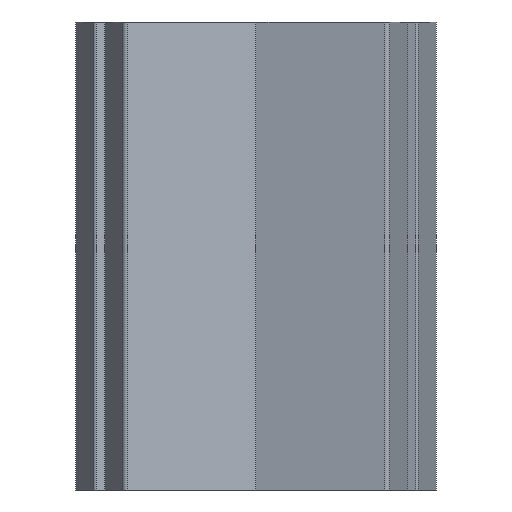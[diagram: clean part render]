
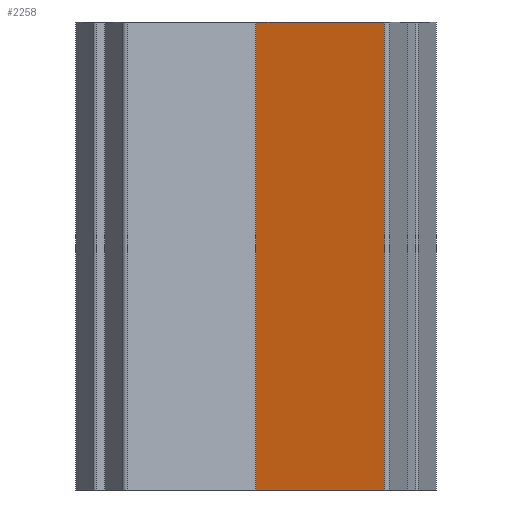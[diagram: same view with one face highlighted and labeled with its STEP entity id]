
A CAD part, front view. The second image highlights one B-rep face of the part: STEP entity #2258.
In plain terms, the highlighted planar face has unit normal (-0.259, -0.966, 0).
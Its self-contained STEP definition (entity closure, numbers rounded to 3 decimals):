
#26 = EDGE_CURVE ( 'NONE', #466, #2180, #1621, .T. ) ;
#85 = ORIENTED_EDGE ( 'NONE', *, *, #2661, .F. ) ;
#243 = CARTESIAN_POINT ( 'NONE',  ( 0., -18.441, 0. ) ) ;
#380 = ORIENTED_EDGE ( 'NONE', *, *, #26, .T. ) ;
#466 = VERTEX_POINT ( 'NONE', #1145 ) ;
#655 = LINE ( 'NONE', #2476, #910 ) ;
#746 = CARTESIAN_POINT ( 'NONE',  ( 27.37, -25.775, 0. ) ) ;
#766 = CARTESIAN_POINT ( 'NONE',  ( 0., -18.441, -100. ) ) ;
#900 = DIRECTION ( 'NONE',  ( 0., 0., 1. ) ) ;
#910 = VECTOR ( 'NONE', #900, 1000. ) ;
#1010 = LINE ( 'NONE', #2023, #3162 ) ;
#1012 = DIRECTION ( 'NONE',  ( 0.966, -0.259, 0. ) ) ;
#1062 = FACE_OUTER_BOUND ( 'NONE', #2013, .T. ) ;
#1145 = CARTESIAN_POINT ( 'NONE',  ( 27.37, -25.775, -100. ) ) ;
#1292 = LINE ( 'NONE', #243, #2313 ) ;
#1449 = VECTOR ( 'NONE', #2383, 1000. ) ;
#1470 = ORIENTED_EDGE ( 'NONE', *, *, #1648, .F. ) ;
#1621 = LINE ( 'NONE', #2633, #1449 ) ;
#1648 = EDGE_CURVE ( 'NONE', #2733, #2021, #655, .T. ) ;
#1717 = CARTESIAN_POINT ( 'NONE',  ( 0., -18.441, 0. ) ) ;
#1806 = DIRECTION ( 'NONE',  ( 0.966, -0.259, 0. ) ) ;
#2013 = EDGE_LOOP ( 'NONE', ( #85, #1470, #2992, #380 ) ) ;
#2021 = VERTEX_POINT ( 'NONE', #1717 ) ;
#2023 = CARTESIAN_POINT ( 'NONE',  ( 0., -18.441, -100. ) ) ;
#2138 = AXIS2_PLACEMENT_3D ( 'NONE', #766, #2583, #1806 ) ;
#2180 = VERTEX_POINT ( 'NONE', #746 ) ;
#2258 = ADVANCED_FACE ( 'NONE', ( #1062 ), #2297, .T. ) ;
#2297 = PLANE ( 'NONE',  #2138 ) ;
#2313 = VECTOR ( 'NONE', #1012, 1000. ) ;
#2383 = DIRECTION ( 'NONE',  ( 0., 0., 1. ) ) ;
#2476 = CARTESIAN_POINT ( 'NONE',  ( 0., -18.441, -100. ) ) ;
#2583 = DIRECTION ( 'NONE',  ( -0.259, -0.966, 0. ) ) ;
#2633 = CARTESIAN_POINT ( 'NONE',  ( 27.37, -25.775, -100. ) ) ;
#2661 = EDGE_CURVE ( 'NONE', #2021, #2180, #1292, .T. ) ;
#2733 = VERTEX_POINT ( 'NONE', #2884 ) ;
#2788 = DIRECTION ( 'NONE',  ( 0.966, -0.259, 0. ) ) ;
#2884 = CARTESIAN_POINT ( 'NONE',  ( 0., -18.441, -100. ) ) ;
#2992 = ORIENTED_EDGE ( 'NONE', *, *, #3062, .T. ) ;
#3062 = EDGE_CURVE ( 'NONE', #2733, #466, #1010, .T. ) ;
#3162 = VECTOR ( 'NONE', #2788, 1000. ) ;
